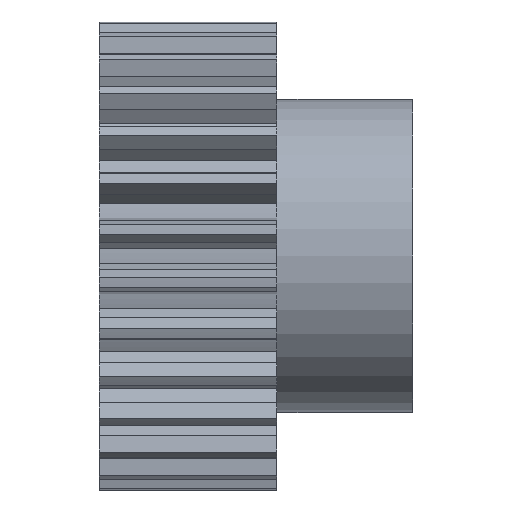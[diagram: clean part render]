
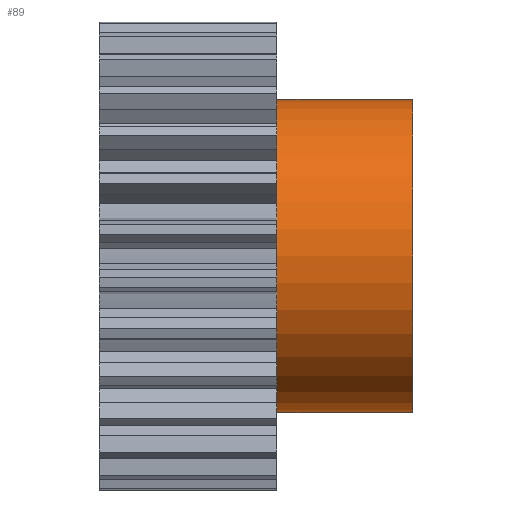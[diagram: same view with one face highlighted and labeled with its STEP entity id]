
A CAD part, front view. The second image highlights one B-rep face of the part: STEP entity #89.
In plain terms, the highlighted cylindrical face has radius 15 mm (diameter 30 mm), a partial arc.
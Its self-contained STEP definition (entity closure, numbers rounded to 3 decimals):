
#39 = ORIENTED_EDGE ( 'NONE', *, *, #134, .F. ) ;
#64 = EDGE_LOOP ( 'NONE', ( #39, #86, #90, #91 ) ) ;
#86 = ORIENTED_EDGE ( 'NONE', *, *, #5766, .T. ) ;
#89 = ADVANCED_FACE ( 'NONE', ( #1353 ), #1350, .T. ) ;
#90 = ORIENTED_EDGE ( 'NONE', *, *, #139, .T. ) ;
#91 = ORIENTED_EDGE ( 'NONE', *, *, #5765, .T. ) ;
#124 = VERTEX_POINT ( 'NONE', #1476 ) ;
#125 = VERTEX_POINT ( 'NONE', #1421 ) ;
#127 = VERTEX_POINT ( 'NONE', #1419 ) ;
#134 = EDGE_CURVE ( 'NONE', #125, #124, #1465, .T. ) ;
#139 = EDGE_CURVE ( 'NONE', #143, #127, #1448, .T. ) ;
#143 = VERTEX_POINT ( 'NONE', #1447 ) ;
#1350 = CYLINDRICAL_SURFACE ( 'NONE', #1413, 15. ) ;
#1353 = FACE_OUTER_BOUND ( 'NONE', #64, .T. ) ;
#1410 = DIRECTION ( 'NONE',  ( 0., 0., 1. ) ) ;
#1411 = DIRECTION ( 'NONE',  ( -1., 0., 0. ) ) ;
#1412 = CARTESIAN_POINT ( 'NONE',  ( 8.5, 0., 0. ) ) ;
#1413 = AXIS2_PLACEMENT_3D ( 'NONE', #1412, #1411, #1410 ) ;
#1419 = CARTESIAN_POINT ( 'NONE',  ( 8.5, 0., 15. ) ) ;
#1421 = CARTESIAN_POINT ( 'NONE',  ( 21.5, 0., -15. ) ) ;
#1447 = CARTESIAN_POINT ( 'NONE',  ( 21.5, 0., 15. ) ) ;
#1448 = LINE ( 'NONE', #1508, #1507 ) ;
#1462 = DIRECTION ( 'NONE',  ( -1., 0., 0. ) ) ;
#1463 = VECTOR ( 'NONE', #1462, 1000. ) ;
#1464 = CARTESIAN_POINT ( 'NONE',  ( 8.5, 0., -15. ) ) ;
#1465 = LINE ( 'NONE', #1464, #1463 ) ;
#1476 = CARTESIAN_POINT ( 'NONE',  ( 8.5, 0., -15. ) ) ;
#1506 = DIRECTION ( 'NONE',  ( -1., 0., 0. ) ) ;
#1507 = VECTOR ( 'NONE', #1506, 1000. ) ;
#1508 = CARTESIAN_POINT ( 'NONE',  ( 8.5, 0., 15. ) ) ;
#4058 = CARTESIAN_POINT ( 'NONE',  ( 21.5, 0., 0. ) ) ;
#4313 = AXIS2_PLACEMENT_3D ( 'NONE', #4058, #4803, #4821 ) ;
#4554 = DIRECTION ( 'NONE',  ( 0., 0., 1. ) ) ;
#4567 = AXIS2_PLACEMENT_3D ( 'NONE', #4571, #4568, #4554 ) ;
#4568 = DIRECTION ( 'NONE',  ( 1., 0., 0. ) ) ;
#4570 = CIRCLE ( 'NONE', #4567, 15. ) ;
#4571 = CARTESIAN_POINT ( 'NONE',  ( 8.5, 0., 0. ) ) ;
#4803 = DIRECTION ( 'NONE',  ( -1., 0., 0. ) ) ;
#4821 = DIRECTION ( 'NONE',  ( 0., 0., 1. ) ) ;
#5389 = CIRCLE ( 'NONE', #4313, 15. ) ;
#5765 = EDGE_CURVE ( 'NONE', #127, #124, #4570, .T. ) ;
#5766 = EDGE_CURVE ( 'NONE', #125, #143, #5389, .T. ) ;
